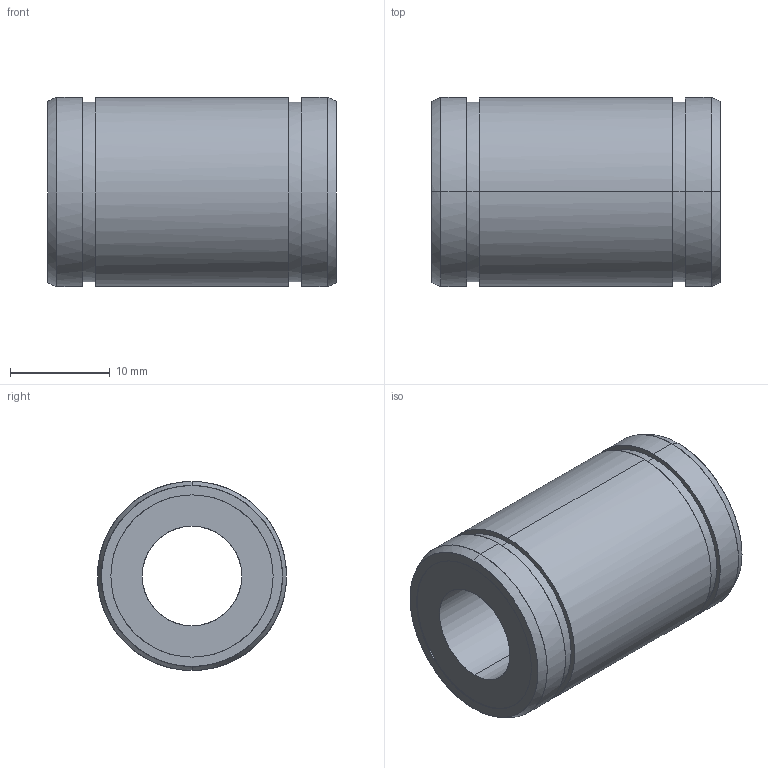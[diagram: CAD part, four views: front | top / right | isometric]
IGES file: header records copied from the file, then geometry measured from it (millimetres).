
Global section: file name: No Iges File Name specified; native system: AutoDesk Inventor R10; preprocessor: AutoDesk Inventor Iges Exporter R10; author: No Author specified; organization: No Organization specified; date: 20101208.094753; units: millimetre
Bounding box: 29 x 19 x 19 mm (x, y, z)
Surface area: 3125.1 mm2 (no closed solid volume)
Topology: 0 solids, 0 shells, 28 faces, 184 edges, 184 vertices
Faces by surface type: bspline 28
